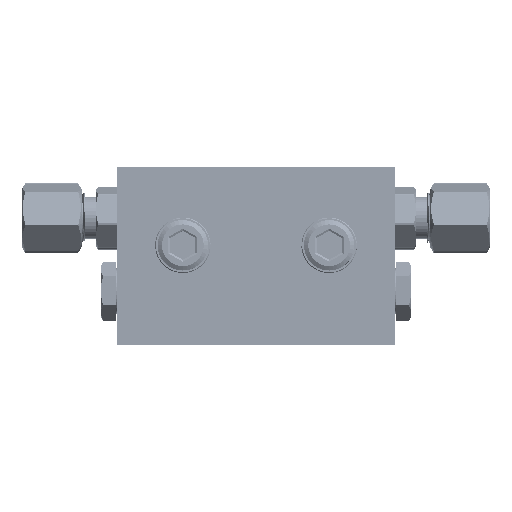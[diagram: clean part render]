
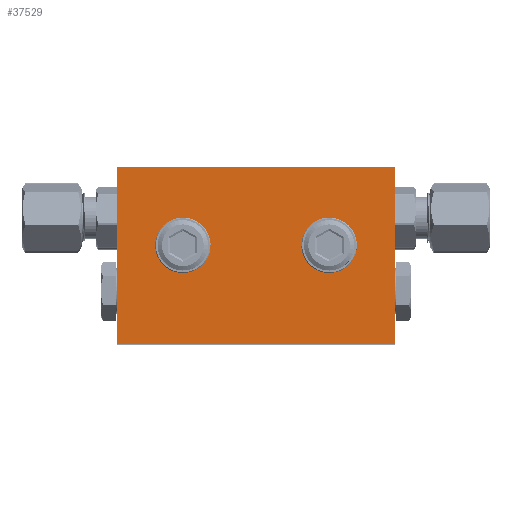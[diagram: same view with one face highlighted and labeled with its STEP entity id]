
A CAD part, top view. The second image highlights one B-rep face of the part: STEP entity #37529.
In plain terms, the highlighted planar face has unit normal (0, 0, 1) as drawn and (0, 0, -1) by its records, which use the part's own axes.
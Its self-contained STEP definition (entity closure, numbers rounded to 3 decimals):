
#407 = EDGE_CURVE ( 'NONE', #39874, #39874, #15027, .T. ) ;
#1907 = DIRECTION ( 'NONE',  ( 0., 1., 0. ) ) ;
#2943 = DIRECTION ( 'NONE',  ( 0., 0., -1. ) ) ;
#3372 = FACE_BOUND ( 'NONE', #30750, .T. ) ;
#5030 = CARTESIAN_POINT ( 'NONE',  ( -27.5, 0., -4.85 ) ) ;
#6287 = FACE_BOUND ( 'NONE', #14258, .T. ) ;
#6731 = DIRECTION ( 'NONE',  ( 1., 0., 0. ) ) ;
#8728 = ORIENTED_EDGE ( 'NONE', *, *, #9561, .F. ) ;
#9011 = LINE ( 'NONE', #42402, #36331 ) ;
#9561 = EDGE_CURVE ( 'NONE', #19177, #23988, #9011, .T. ) ;
#9709 = CARTESIAN_POINT ( 'NONE',  ( 0., 0., -4.85 ) ) ;
#10355 = ORIENTED_EDGE ( 'NONE', *, *, #15959, .F. ) ;
#10624 = DIRECTION ( 'NONE',  ( 1., 0., 0. ) ) ;
#10780 = CARTESIAN_POINT ( 'NONE',  ( 27.5, 0., -4.85 ) ) ;
#10932 = ORIENTED_EDGE ( 'NONE', *, *, #27951, .F. ) ;
#12193 = AXIS2_PLACEMENT_3D ( 'NONE', #36525, #26017, #12688 ) ;
#12688 = DIRECTION ( 'NONE',  ( 1., 0., 0. ) ) ;
#12922 = CARTESIAN_POINT ( 'NONE',  ( 0., 0., -4.85 ) ) ;
#13577 = PLANE ( 'NONE',  #27498 ) ;
#13753 = CARTESIAN_POINT ( 'NONE',  ( -27.5, -35., -4.85 ) ) ;
#14258 = EDGE_LOOP ( 'NONE', ( #33437 ) ) ;
#14610 = LINE ( 'NONE', #37556, #25348 ) ;
#15027 = CIRCLE ( 'NONE', #12193, 3.1 ) ;
#15959 = EDGE_CURVE ( 'NONE', #18134, #19177, #34458, .T. ) ;
#16972 = AXIS2_PLACEMENT_3D ( 'NONE', #30292, #2943, #43449 ) ;
#18134 = VERTEX_POINT ( 'NONE', #13753 ) ;
#18497 = CARTESIAN_POINT ( 'NONE',  ( 11.4, -15.5, -4.85 ) ) ;
#18568 = ORIENTED_EDGE ( 'NONE', *, *, #23496, .F. ) ;
#19177 = VERTEX_POINT ( 'NONE', #33752 ) ;
#20594 = DIRECTION ( 'NONE',  ( 0., -1., 0. ) ) ;
#22797 = DIRECTION ( 'NONE',  ( -1., 0., 0. ) ) ;
#23139 = CARTESIAN_POINT ( 'NONE',  ( -11.4, -15.5, -4.85 ) ) ;
#23496 = EDGE_CURVE ( 'NONE', #23988, #29157, #36655, .T. ) ;
#23988 = VERTEX_POINT ( 'NONE', #10780 ) ;
#25348 = VECTOR ( 'NONE', #20594, 1000. ) ;
#26017 = DIRECTION ( 'NONE',  ( 0., 0., -1. ) ) ;
#26475 = DIRECTION ( 'NONE',  ( 0., 0., 1. ) ) ;
#27167 = VECTOR ( 'NONE', #22797, 1000. ) ;
#27498 = AXIS2_PLACEMENT_3D ( 'NONE', #12922, #26475, #6731 ) ;
#27951 = EDGE_CURVE ( 'NONE', #29157, #18134, #14610, .T. ) ;
#29157 = VERTEX_POINT ( 'NONE', #5030 ) ;
#30292 = CARTESIAN_POINT ( 'NONE',  ( 14.5, -15.5, -4.85 ) ) ;
#30750 = EDGE_LOOP ( 'NONE', ( #40086 ) ) ;
#33398 = CIRCLE ( 'NONE', #16972, 3.1 ) ;
#33437 = ORIENTED_EDGE ( 'NONE', *, *, #39625, .F. ) ;
#33752 = CARTESIAN_POINT ( 'NONE',  ( 27.5, -35., -4.85 ) ) ;
#34458 = LINE ( 'NONE', #42022, #36044 ) ;
#34782 = VERTEX_POINT ( 'NONE', #18497 ) ;
#35389 = EDGE_LOOP ( 'NONE', ( #10355, #10932, #18568, #8728 ) ) ;
#36044 = VECTOR ( 'NONE', #10624, 1000. ) ;
#36331 = VECTOR ( 'NONE', #1907, 1000. ) ;
#36525 = CARTESIAN_POINT ( 'NONE',  ( -14.5, -15.5, -4.85 ) ) ;
#36655 = LINE ( 'NONE', #9709, #27167 ) ;
#37529 = ADVANCED_FACE ( 'NONE', ( #3372, #6287, #40743 ), #13577, .F. ) ;
#37556 = CARTESIAN_POINT ( 'NONE',  ( -27.5, 0., -4.85 ) ) ;
#39625 = EDGE_CURVE ( 'NONE', #34782, #34782, #33398, .T. ) ;
#39874 = VERTEX_POINT ( 'NONE', #23139 ) ;
#40086 = ORIENTED_EDGE ( 'NONE', *, *, #407, .F. ) ;
#40743 = FACE_OUTER_BOUND ( 'NONE', #35389, .T. ) ;
#42022 = CARTESIAN_POINT ( 'NONE',  ( 0., -35., -4.85 ) ) ;
#42402 = CARTESIAN_POINT ( 'NONE',  ( 27.5, 0., -4.85 ) ) ;
#43449 = DIRECTION ( 'NONE',  ( -1., 0., 0. ) ) ;
